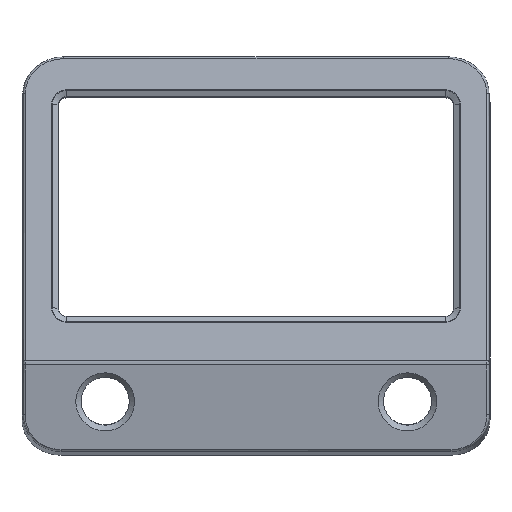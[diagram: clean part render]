
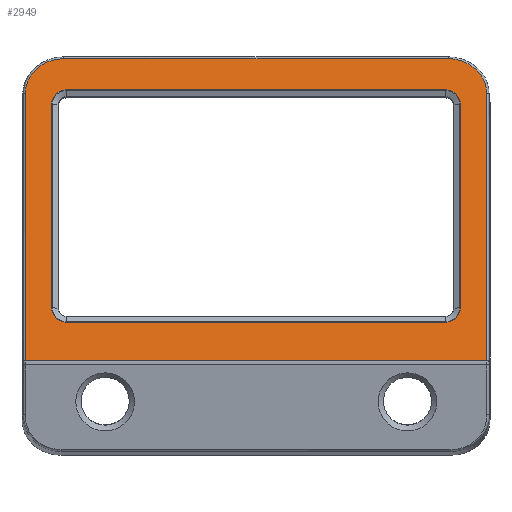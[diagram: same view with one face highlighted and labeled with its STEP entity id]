
A CAD part, front view. The second image highlights one B-rep face of the part: STEP entity #2949.
In plain terms, the highlighted planar face has unit normal (0, -0.985, 0.174).
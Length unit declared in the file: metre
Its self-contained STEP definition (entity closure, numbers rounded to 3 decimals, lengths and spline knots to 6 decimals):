
#75=B_SPLINE_CURVE_WITH_KNOTS('',3,(#5916,#5917,#5918,#5919),
 .UNSPECIFIED.,.F.,.F.,(4,4),(0.,1.),.UNSPECIFIED.);
#78=B_SPLINE_CURVE_WITH_KNOTS('',3,(#6034,#6035,#6036,#6037,#6038,#6039,
#6040,#6041),.UNSPECIFIED.,.F.,.F.,(4,1,1,1,1,4),(0.,0.25,0.375,0.5,0.75,
1.),.UNSPECIFIED.);
#81=B_SPLINE_CURVE_WITH_KNOTS('',3,(#6066,#6067,#6068,#6069),
 .UNSPECIFIED.,.F.,.F.,(4,4),(0.,1.),.UNSPECIFIED.);
#84=B_SPLINE_CURVE_WITH_KNOTS('',3,(#6184,#6185,#6186,#6187,#6188,#6189,
#6190),.UNSPECIFIED.,.F.,.F.,(4,1,1,1,4),(0.,0.25,0.5,0.75,1.),
 .UNSPECIFIED.);
#85=B_SPLINE_CURVE_WITH_KNOTS('',3,(#6192,#6193,#6194,#6195),
 .UNSPECIFIED.,.F.,.F.,(4,4),(0.,1.),.UNSPECIFIED.);
#295=LINE('',#5222,#520);
#296=LINE('',#5230,#521);
#297=LINE('',#5238,#522);
#298=LINE('',#5244,#523);
#299=LINE('',#6197,#524);
#520=VECTOR('',#3748,1.);
#521=VECTOR('',#3759,1.);
#522=VECTOR('',#3770,1.);
#523=VECTOR('',#3779,1.);
#524=VECTOR('',#3782,1.);
#1127=ORIENTED_EDGE('',*,*,#1774,.F.);
#1128=ORIENTED_EDGE('',*,*,#1772,.T.);
#1129=ORIENTED_EDGE('',*,*,#1770,.F.);
#1130=ORIENTED_EDGE('',*,*,#1768,.T.);
#1131=ORIENTED_EDGE('',*,*,#1766,.F.);
#1132=ORIENTED_EDGE('',*,*,#1764,.T.);
#1133=ORIENTED_EDGE('',*,*,#1762,.F.);
#1134=ORIENTED_EDGE('',*,*,#1775,.T.);
#1135=ORIENTED_EDGE('',*,*,#1794,.F.);
#1136=ORIENTED_EDGE('',*,*,#1797,.F.);
#1137=ORIENTED_EDGE('',*,*,#1800,.F.);
#1138=ORIENTED_EDGE('',*,*,#1803,.F.);
#1139=ORIENTED_EDGE('',*,*,#1804,.F.);
#1140=ORIENTED_EDGE('',*,*,#1805,.T.);
#1762=EDGE_CURVE('',#2113,#2112,#2301,.T.);
#1764=EDGE_CURVE('',#2114,#2112,#295,.T.);
#1766=EDGE_CURVE('',#2114,#2115,#2304,.T.);
#1768=EDGE_CURVE('',#2116,#2115,#296,.T.);
#1770=EDGE_CURVE('',#2116,#2117,#2307,.T.);
#1772=EDGE_CURVE('',#2118,#2117,#297,.T.);
#1774=EDGE_CURVE('',#2118,#2119,#2310,.T.);
#1775=EDGE_CURVE('',#2113,#2119,#298,.T.);
#1794=EDGE_CURVE('',#2133,#2130,#75,.F.);
#1797=EDGE_CURVE('',#2135,#2133,#78,.F.);
#1800=EDGE_CURVE('',#2137,#2135,#81,.F.);
#1803=EDGE_CURVE('',#2139,#2137,#84,.F.);
#1804=EDGE_CURVE('',#2140,#2139,#85,.F.);
#1805=EDGE_CURVE('',#2140,#2130,#299,.T.);
#2112=VERTEX_POINT('',#5215);
#2113=VERTEX_POINT('',#5217);
#2114=VERTEX_POINT('',#5221);
#2115=VERTEX_POINT('',#5225);
#2116=VERTEX_POINT('',#5229);
#2117=VERTEX_POINT('',#5233);
#2118=VERTEX_POINT('',#5237);
#2119=VERTEX_POINT('',#5241);
#2130=VERTEX_POINT('',#5880);
#2133=VERTEX_POINT('',#5915);
#2135=VERTEX_POINT('',#6033);
#2137=VERTEX_POINT('',#6065);
#2139=VERTEX_POINT('',#6183);
#2140=VERTEX_POINT('',#6196);
#2301=CIRCLE('',#3186,0.005638);
#2304=CIRCLE('',#3191,0.005638);
#2307=CIRCLE('',#3196,0.005638);
#2310=CIRCLE('',#3201,0.005638);
#2458=EDGE_LOOP('',(#1127,#1128,#1129,#1130,#1131,#1132,#1133,#1134));
#2459=EDGE_LOOP('',(#1135,#1136,#1137,#1138,#1139,#1140));
#2667=FACE_BOUND('',#2458,.T.);
#2668=FACE_BOUND('',#2459,.T.);
#2798=PLANE('',#3203);
#2949=ADVANCED_FACE('',(#2667,#2668),#2798,.T.);
#3186=AXIS2_PLACEMENT_3D('',#5218,#3742,#3743);
#3191=AXIS2_PLACEMENT_3D('',#5226,#3753,#3754);
#3196=AXIS2_PLACEMENT_3D('',#5234,#3764,#3765);
#3201=AXIS2_PLACEMENT_3D('',#5242,#3775,#3776);
#3203=AXIS2_PLACEMENT_3D('',#6191,#3780,#3781);
#3742=DIRECTION('',(0.,-0.985,0.174));
#3743=DIRECTION('',(0.,0.174,0.985));
#3748=DIRECTION('',(0.,0.174,0.985));
#3753=DIRECTION('',(0.,-0.985,0.174));
#3754=DIRECTION('',(-1.,0.,0.));
#3759=DIRECTION('',(-1.,0.,0.));
#3764=DIRECTION('',(0.,-0.985,0.174));
#3765=DIRECTION('',(0.,-0.174,-0.985));
#3770=DIRECTION('',(0.,-0.174,-0.985));
#3775=DIRECTION('',(0.,-0.985,0.174));
#3776=DIRECTION('',(1.,0.,0.));
#3779=DIRECTION('',(1.,0.,0.));
#3780=DIRECTION('',(0.,-0.985,0.174));
#3781=DIRECTION('',(0.,-0.174,-0.985));
#3782=DIRECTION('',(1.,0.,0.));
#5215=CARTESIAN_POINT('',(-0.142456,0.017821,1.475784));
#5217=CARTESIAN_POINT('',(-0.136817,0.0188,1.481337));
#5218=CARTESIAN_POINT('',(-0.136817,0.017821,1.475784));
#5221=CARTESIAN_POINT('',(-0.142456,0.004059,1.397738));
#5222=CARTESIAN_POINT('',(-0.142456,0.004059,1.397738));
#5225=CARTESIAN_POINT('',(-0.136817,0.00308,1.392185));
#5226=CARTESIAN_POINT('',(-0.136817,0.004059,1.397738));
#5229=CARTESIAN_POINT('',(0.008683,0.00308,1.392185));
#5230=CARTESIAN_POINT('',(0.008683,0.00308,1.392185));
#5233=CARTESIAN_POINT('',(0.014321,0.004059,1.397738));
#5234=CARTESIAN_POINT('',(0.008683,0.004059,1.397738));
#5237=CARTESIAN_POINT('',(0.014321,0.017821,1.475784));
#5238=CARTESIAN_POINT('',(0.014321,0.017821,1.475784));
#5241=CARTESIAN_POINT('',(0.008683,0.0188,1.481337));
#5242=CARTESIAN_POINT('',(0.008683,0.017821,1.475784));
#5244=CARTESIAN_POINT('',(-0.136817,0.0188,1.481337));
#5880=CARTESIAN_POINT('',(0.024399,0.000463,1.377345));
#5915=CARTESIAN_POINT('',(0.024399,0.018558,1.47997));
#5916=CARTESIAN_POINT('',(0.024399,0.000463,1.377345));
#5917=CARTESIAN_POINT('',(0.024399,0.006495,1.411553));
#5918=CARTESIAN_POINT('',(0.024399,0.012527,1.445761));
#5919=CARTESIAN_POINT('',(0.024399,0.018559,1.47997));
#6033=CARTESIAN_POINT('',(0.009655,0.0209,1.493251));
#6034=CARTESIAN_POINT('',(0.024399,0.018559,1.47997));
#6035=CARTESIAN_POINT('',(0.024399,0.018877,1.481774));
#6036=CARTESIAN_POINT('',(0.023762,0.019357,1.484496));
#6037=CARTESIAN_POINT('',(0.021833,0.019906,1.487609));
#6038=CARTESIAN_POINT('',(0.019289,0.020376,1.490278));
#6039=CARTESIAN_POINT('',(0.015228,0.020788,1.492614));
#6040=CARTESIAN_POINT('',(0.011506,0.020901,1.493251));
#6041=CARTESIAN_POINT('',(0.009655,0.020901,1.493251));
#6065=CARTESIAN_POINT('',(-0.137789,0.0209,1.493251));
#6066=CARTESIAN_POINT('',(0.009655,0.020901,1.493251));
#6067=CARTESIAN_POINT('',(-0.039493,0.020901,1.493251));
#6068=CARTESIAN_POINT('',(-0.088641,0.020901,1.493251));
#6069=CARTESIAN_POINT('',(-0.137789,0.020901,1.493251));
#6183=CARTESIAN_POINT('',(-0.152533,0.018558,1.47997));
#6184=CARTESIAN_POINT('',(-0.137789,0.020901,1.493251));
#6185=CARTESIAN_POINT('',(-0.139639,0.020901,1.493251));
#6186=CARTESIAN_POINT('',(-0.143362,0.020788,1.492614));
#6187=CARTESIAN_POINT('',(-0.148239,0.020294,1.489812));
#6188=CARTESIAN_POINT('',(-0.151688,0.019517,1.485403));
#6189=CARTESIAN_POINT('',(-0.152533,0.018877,1.481774));
#6190=CARTESIAN_POINT('',(-0.152533,0.018559,1.47997));
#6191=CARTESIAN_POINT('',(0.025933,0.010745,1.435653));
#6192=CARTESIAN_POINT('',(-0.152533,0.018559,1.47997));
#6193=CARTESIAN_POINT('',(-0.152533,0.012527,1.445761));
#6194=CARTESIAN_POINT('',(-0.152533,0.006495,1.411553));
#6195=CARTESIAN_POINT('',(-0.152533,0.000463,1.377345));
#6196=CARTESIAN_POINT('',(-0.152533,0.000463,1.377345));
#6197=CARTESIAN_POINT('',(-0.388787,0.000463,1.377345));
